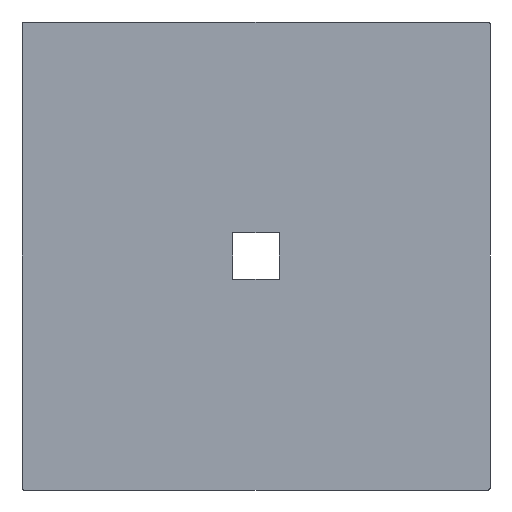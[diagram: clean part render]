
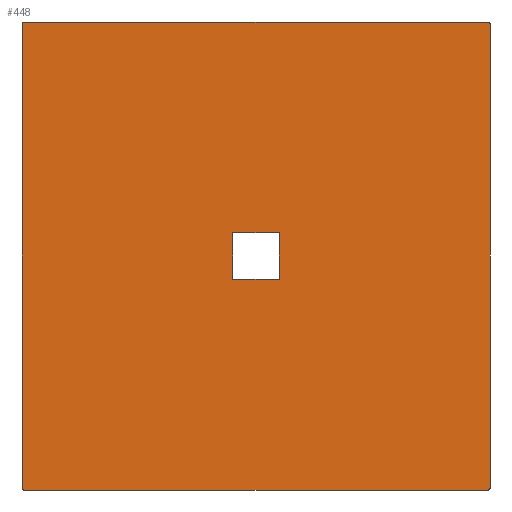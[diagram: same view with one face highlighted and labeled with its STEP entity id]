
A CAD part, front view. The second image highlights one B-rep face of the part: STEP entity #448.
In plain terms, the highlighted planar face has unit normal (0, -1, 0).
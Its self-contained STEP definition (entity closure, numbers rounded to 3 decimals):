
#17=FACE_BOUND('',#185,.T.);
#32=PLANE('',#493);
#49=LINE('',#692,#93);
#50=LINE('',#694,#94);
#55=LINE('',#707,#99);
#59=LINE('',#715,#103);
#62=LINE('',#721,#106);
#65=LINE('',#726,#109);
#75=LINE('',#746,#119);
#76=LINE('',#748,#120);
#93=VECTOR('',#570,298.);
#94=VECTOR('',#573,298.);
#99=VECTOR('',#582,30.);
#103=VECTOR('',#588,30.);
#106=VECTOR('',#593,30.);
#109=VECTOR('',#598,30.);
#119=VECTOR('',#620,298.);
#120=VECTOR('',#623,298.);
#155=FACE_OUTER_BOUND('',#184,.T.);
#184=EDGE_LOOP('',(#406,#407,#408,#409,#410,#411,#412,#413));
#185=EDGE_LOOP('',(#414,#415,#416,#417));
#189=CIRCLE('',#456,1.);
#193=CIRCLE('',#462,1.);
#197=CIRCLE('',#468,1.);
#201=CIRCLE('',#475,1.);
#205=VERTEX_POINT('',#635);
#206=VERTEX_POINT('',#636);
#210=VERTEX_POINT('',#648);
#211=VERTEX_POINT('',#649);
#215=VERTEX_POINT('',#661);
#216=VERTEX_POINT('',#662);
#220=VERTEX_POINT('',#677);
#221=VERTEX_POINT('',#678);
#226=VERTEX_POINT('',#705);
#227=VERTEX_POINT('',#706);
#230=VERTEX_POINT('',#714);
#232=VERTEX_POINT('',#720);
#241=EDGE_CURVE('',#205,#206,#189,.T.);
#247=EDGE_CURVE('',#210,#211,#193,.T.);
#253=EDGE_CURVE('',#215,#216,#197,.T.);
#261=EDGE_CURVE('',#220,#221,#201,.T.);
#270=EDGE_CURVE('',#216,#205,#49,.T.);
#271=EDGE_CURVE('',#221,#215,#50,.T.);
#276=EDGE_CURVE('',#226,#227,#55,.T.);
#280=EDGE_CURVE('',#230,#226,#59,.T.);
#283=EDGE_CURVE('',#232,#230,#62,.T.);
#286=EDGE_CURVE('',#227,#232,#65,.T.);
#296=EDGE_CURVE('',#206,#210,#75,.T.);
#297=EDGE_CURVE('',#211,#220,#76,.T.);
#406=ORIENTED_EDGE('',*,*,#241,.F.);
#407=ORIENTED_EDGE('',*,*,#270,.F.);
#408=ORIENTED_EDGE('',*,*,#253,.F.);
#409=ORIENTED_EDGE('',*,*,#271,.F.);
#410=ORIENTED_EDGE('',*,*,#261,.F.);
#411=ORIENTED_EDGE('',*,*,#297,.F.);
#412=ORIENTED_EDGE('',*,*,#247,.F.);
#413=ORIENTED_EDGE('',*,*,#296,.F.);
#414=ORIENTED_EDGE('',*,*,#276,.T.);
#415=ORIENTED_EDGE('',*,*,#286,.T.);
#416=ORIENTED_EDGE('',*,*,#283,.T.);
#417=ORIENTED_EDGE('',*,*,#280,.T.);
#448=ADVANCED_FACE('',(#155,#17),#32,.F.);
#456=AXIS2_PLACEMENT_3D('',#637,#506,#507);
#462=AXIS2_PLACEMENT_3D('',#650,#520,#521);
#468=AXIS2_PLACEMENT_3D('',#663,#534,#535);
#475=AXIS2_PLACEMENT_3D('',#679,#552,#553);
#493=AXIS2_PLACEMENT_3D('',#749,#624,#625);
#506=DIRECTION('center_axis',(0.,1.,0.));
#507=DIRECTION('ref_axis',(-0.707,0.,-0.707));
#520=DIRECTION('center_axis',(0.,1.,0.));
#521=DIRECTION('ref_axis',(-0.707,0.,0.707));
#534=DIRECTION('center_axis',(0.,1.,0.));
#535=DIRECTION('ref_axis',(0.707,0.,-0.707));
#552=DIRECTION('center_axis',(0.,1.,0.));
#553=DIRECTION('ref_axis',(0.707,0.,0.707));
#570=DIRECTION('',(-1.,0.,0.));
#573=DIRECTION('',(0.,0.,-1.));
#582=DIRECTION('',(0.,0.,-1.));
#588=DIRECTION('',(1.,0.,0.));
#593=DIRECTION('',(0.,0.,1.));
#598=DIRECTION('',(-1.,0.,0.));
#620=DIRECTION('',(0.,0.,1.));
#623=DIRECTION('',(1.,0.,0.));
#624=DIRECTION('center_axis',(0.,1.,0.));
#625=DIRECTION('ref_axis',(0.,0.,1.));
#635=CARTESIAN_POINT('',(1.,0.,-300.));
#636=CARTESIAN_POINT('',(0.,0.,-299.));
#637=CARTESIAN_POINT('Origin',(1.,0.,-299.));
#648=CARTESIAN_POINT('',(0.,0.,-1.));
#649=CARTESIAN_POINT('',(1.,0.,0.));
#650=CARTESIAN_POINT('Origin',(1.,0.,-1.));
#661=CARTESIAN_POINT('',(300.,0.,-299.));
#662=CARTESIAN_POINT('',(299.,0.,-300.));
#663=CARTESIAN_POINT('Origin',(299.,0.,-299.));
#677=CARTESIAN_POINT('',(299.,0.,0.));
#678=CARTESIAN_POINT('',(300.,0.,-1.));
#679=CARTESIAN_POINT('Origin',(299.,0.,-1.));
#692=CARTESIAN_POINT('',(300.,0.,-300.));
#694=CARTESIAN_POINT('',(300.,0.,0.));
#705=CARTESIAN_POINT('',(165.,0.,-135.));
#706=CARTESIAN_POINT('',(165.,0.,-165.));
#707=CARTESIAN_POINT('',(165.,0.,-142.5));
#714=CARTESIAN_POINT('',(135.,0.,-135.));
#715=CARTESIAN_POINT('',(142.5,0.,-135.));
#720=CARTESIAN_POINT('',(135.,0.,-165.));
#721=CARTESIAN_POINT('',(135.,0.,-157.5));
#726=CARTESIAN_POINT('',(157.5,0.,-165.));
#746=CARTESIAN_POINT('',(0.,0.,-300.));
#748=CARTESIAN_POINT('',(0.,0.,0.));
#749=CARTESIAN_POINT('Origin',(150.,0.,-150.));
